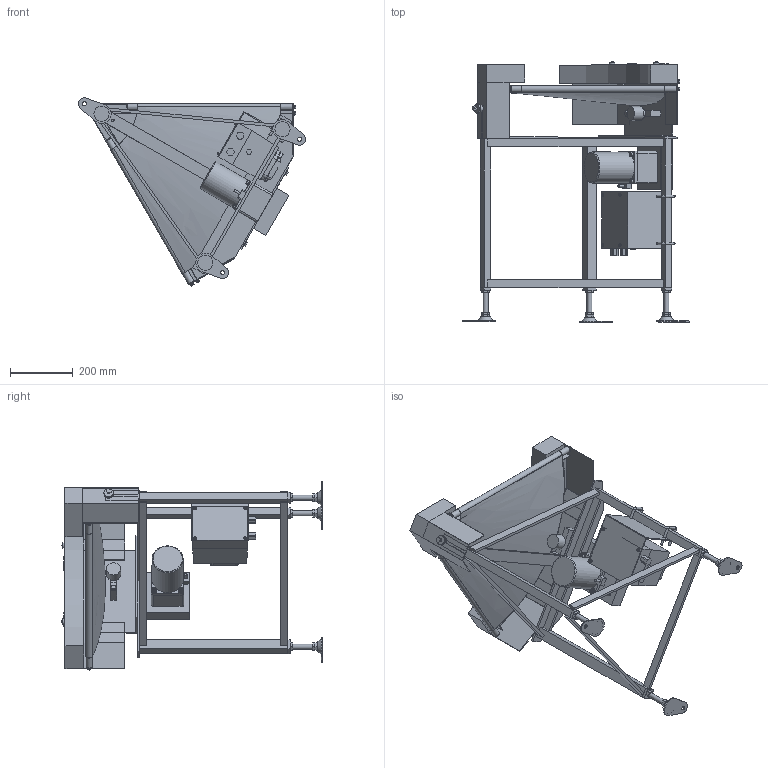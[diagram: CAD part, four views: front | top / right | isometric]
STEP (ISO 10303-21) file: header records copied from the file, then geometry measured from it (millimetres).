
FILE_DESCRIPTION (( 'STEP AP214' ), '1' );
FILE_NAME ('FFBC3-UD-309-400-60°-L-IV-60.STEP', '2023-04-18T07:25:29', ( '' ), ( '' ), 'SwSTEP 2.0', 'SolidWorks 2017', '' );
FILE_SCHEMA (( 'AUTOMOTIVE_DESIGN' ));
Length unit declared in the file: millimetre
Products named in the file (1): FFBC3-UD-309-400-60°-L-IV-60
Bounding box: 722.55 x 827.92 x 598.74 mm (x, y, z)
Volume: 16488180.6 mm3; surface area: 3006008.1 mm2
Topology: 55 solids, 56 shells, 1012 faces, 2316 edges, 1496 vertices
Faces by surface type: plane 748, cylinder 199, bspline 32, cone 19, torus 12, sphere 2
Full cylindrical faces by diameter (mm): 4 x4, 4.2 x2, 4.5 x1, 5 x4, 5.9 x4, 7 x1, 7.6 x4, 7.8 x1, 8 x16, 8.4 x4, 8.5 x8, 9 x6, 12.5 x4, 13 x11, 13.8 x1, 15 x4, 16 x9, 17 x9, 18 x4, 20 x3, 25 x1, 30 x2, 42 x1, 45 x1, 99 x1
Entity records: 46174 total; most frequent: CARTESIAN_POINT 12274, DIRECTION 4449, ORIENTED_EDGE 4274, EDGE_CURVE 2137, VECTOR 1561, LINE 1561, VERTEX_POINT 1460, AXIS2_PLACEMENT_3D 1444
